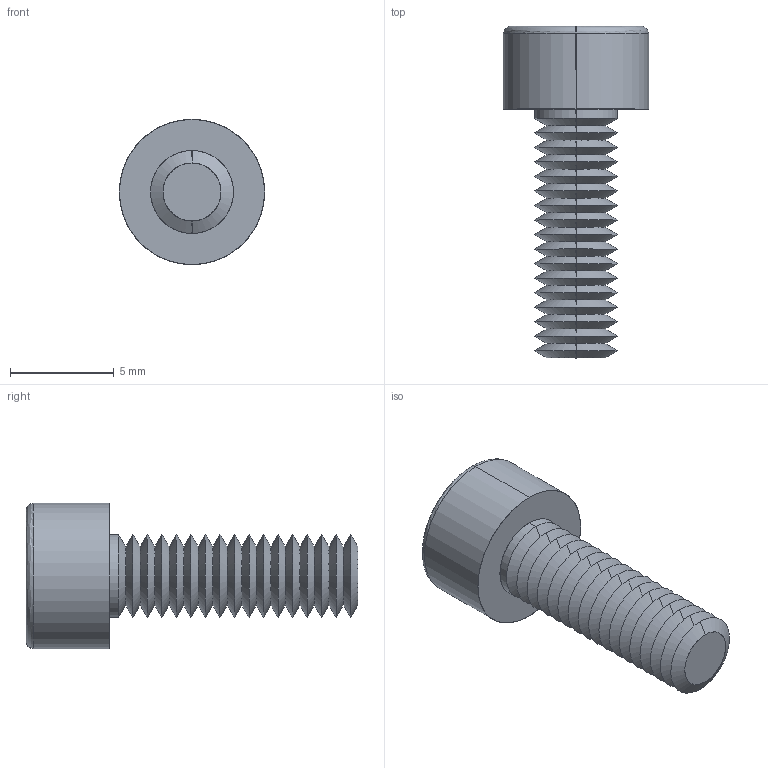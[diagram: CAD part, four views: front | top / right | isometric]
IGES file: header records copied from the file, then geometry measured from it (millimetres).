
Start section: SolidWorks IGES file using analytic representation for surfaces
Global section: file name: C:\Users\ianosborn\Desktop\N0007.91N_v2\N0007.91N_v2_20250519_IGES\91N.040.0120.igs; native system: SolidWorks 2019; preprocessor: SolidWorks 2019; author: IanOsborn; date: 250520.095102; units: millimetre
Bounding box: 7 x 16 x 7 mm (x, y, z)
Surface area: 439 mm2 (no closed solid volume)
Topology: 0 solids, 0 shells, 96 faces, 569 edges, 567 vertices
Faces by surface type: revolution 79, bspline 17
